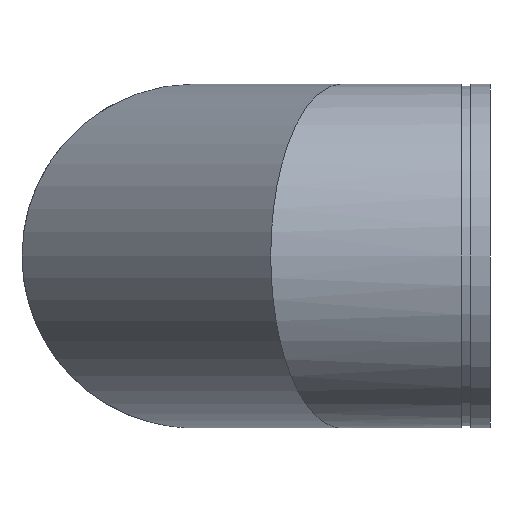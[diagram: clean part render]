
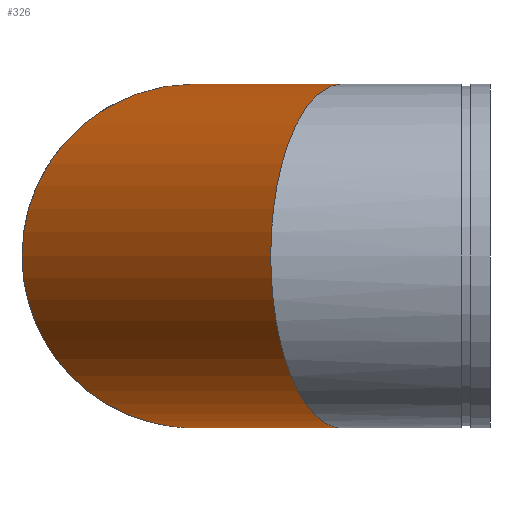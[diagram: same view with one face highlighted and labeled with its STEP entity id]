
A CAD part, left-side view. The second image highlights one B-rep face of the part: STEP entity #326.
In plain terms, the highlighted cylindrical face has radius 228.6 mm (diameter 457.2 mm), a full revolution.
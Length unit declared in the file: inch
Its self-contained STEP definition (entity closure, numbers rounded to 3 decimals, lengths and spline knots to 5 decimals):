
#51=ELLIPSE('',#383,9.74153,9.);
#52=ELLIPSE('',#384,9.74153,9.);
#53=ELLIPSE('',#385,9.74153,9.);
#54=ELLIPSE('',#388,9.74153,9.);
#55=ELLIPSE('',#389,9.74153,9.);
#56=ELLIPSE('',#390,9.74153,9.);
#82=FACE_OUTER_BOUND('',#103,.T.);
#103=EDGE_LOOP('',(#269,#270,#271,#272,#273,#274,#275,#276));
#115=LINE('',#606,#125);
#125=VECTOR('',#494,9.);
#165=VERTEX_POINT('',#596);
#166=VERTEX_POINT('',#598);
#167=VERTEX_POINT('',#600);
#168=VERTEX_POINT('',#605);
#169=VERTEX_POINT('',#607);
#170=VERTEX_POINT('',#609);
#201=EDGE_CURVE('',#165,#166,#51,.T.);
#202=EDGE_CURVE('',#167,#166,#52,.T.);
#203=EDGE_CURVE('',#167,#165,#53,.T.);
#204=EDGE_CURVE('',#165,#168,#115,.T.);
#205=EDGE_CURVE('',#168,#169,#54,.T.);
#206=EDGE_CURVE('',#170,#169,#55,.T.);
#207=EDGE_CURVE('',#170,#168,#56,.T.);
#269=ORIENTED_EDGE('',*,*,#203,.F.);
#270=ORIENTED_EDGE('',*,*,#202,.T.);
#271=ORIENTED_EDGE('',*,*,#201,.F.);
#272=ORIENTED_EDGE('',*,*,#204,.T.);
#273=ORIENTED_EDGE('',*,*,#205,.T.);
#274=ORIENTED_EDGE('',*,*,#206,.F.);
#275=ORIENTED_EDGE('',*,*,#207,.T.);
#276=ORIENTED_EDGE('',*,*,#204,.F.);
#293=CYLINDRICAL_SURFACE('',#387,9.);
#326=ADVANCED_FACE('',(#82),#293,.T.);
#383=AXIS2_PLACEMENT_3D('',#599,#484,#485);
#384=AXIS2_PLACEMENT_3D('',#601,#486,#487);
#385=AXIS2_PLACEMENT_3D('',#602,#488,#489);
#387=AXIS2_PLACEMENT_3D('',#604,#492,#493);
#388=AXIS2_PLACEMENT_3D('',#608,#495,#496);
#389=AXIS2_PLACEMENT_3D('',#610,#497,#498);
#390=AXIS2_PLACEMENT_3D('',#611,#499,#500);
#484=DIRECTION('center_axis',(-0.383,-0.924,0.));
#485=DIRECTION('ref_axis',(0.924,-0.383,0.));
#486=DIRECTION('center_axis',(0.383,0.924,0.));
#487=DIRECTION('ref_axis',(0.924,-0.383,0.));
#488=DIRECTION('center_axis',(-0.383,-0.924,0.));
#489=DIRECTION('ref_axis',(0.924,-0.383,0.));
#492=DIRECTION('center_axis',(-0.707,-0.707,0.));
#493=DIRECTION('ref_axis',(0.707,-0.707,0.));
#494=DIRECTION('',(0.707,0.707,0.));
#495=DIRECTION('center_axis',(-0.924,-0.383,0.));
#496=DIRECTION('ref_axis',(0.383,-0.924,0.));
#497=DIRECTION('center_axis',(0.924,0.383,0.));
#498=DIRECTION('ref_axis',(0.383,-0.924,0.));
#499=DIRECTION('center_axis',(-0.924,-0.383,0.));
#500=DIRECTION('ref_axis',(0.383,-0.924,0.));
#596=CARTESIAN_POINT('',(-9.,-4.02208,0.));
#598=CARTESIAN_POINT('',(0.,-7.75,-9.));
#599=CARTESIAN_POINT('Origin',(0.,-7.75,0.));
#600=CARTESIAN_POINT('',(0.,-7.75,9.));
#601=CARTESIAN_POINT('Origin',(0.,-7.75,0.));
#602=CARTESIAN_POINT('Origin',(0.,-7.75,0.));
#604=CARTESIAN_POINT('Origin',(7.75,0.,0.));
#605=CARTESIAN_POINT('',(4.02208,9.,0.));
#606=CARTESIAN_POINT('',(1.38604,6.36396,0.));
#607=CARTESIAN_POINT('',(7.75,0.,-9.));
#608=CARTESIAN_POINT('Origin',(7.75,0.,0.));
#609=CARTESIAN_POINT('',(7.75,0.,9.));
#610=CARTESIAN_POINT('Origin',(7.75,0.,0.));
#611=CARTESIAN_POINT('Origin',(7.75,0.,0.));
